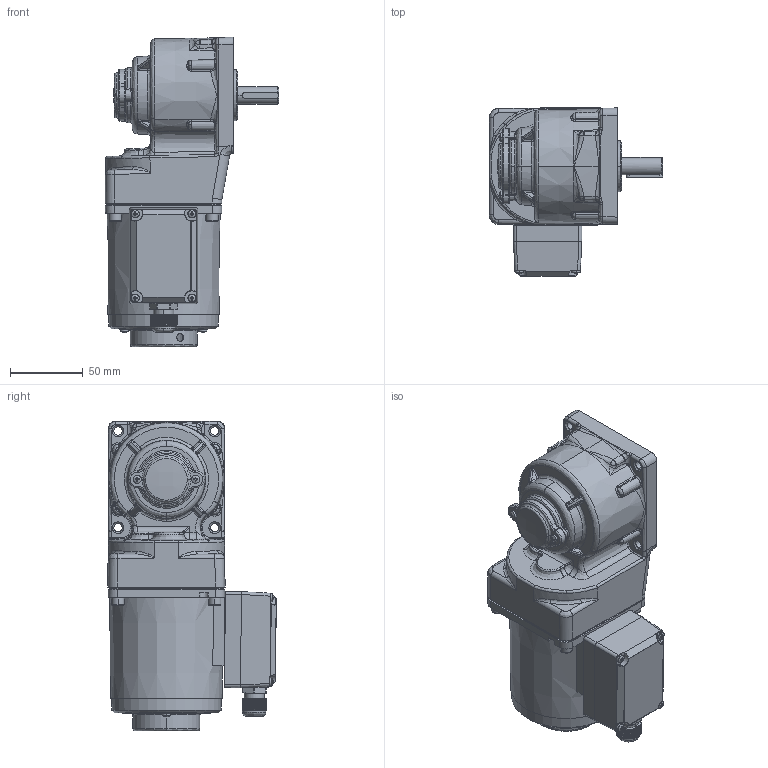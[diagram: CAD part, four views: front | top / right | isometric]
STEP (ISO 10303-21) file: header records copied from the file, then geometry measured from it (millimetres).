
FILE_DESCRIPTION (( 'STEP AP203' ), '1' );
FILE_NAME ('4IK25RGN-CT(4GN3RT-180RT)ÐÂ.STEP', '2022-02-21T09:33:53', ( 'PC' ), ( 'Microsoft' ), 'SwSTEP 2.0', 'SolidWorks 2014', '' );
FILE_SCHEMA (( 'CONFIG_CONTROL_DESIGN' ));
Length unit declared in the file: millimetre
Products named in the file (22): PRT0101^3ik15ra-c_asm(2)_70TSZ.STEP; PRT0035^ASM0002_ASM_ASM_ASM0001_ASM_ASM_4IK25GN-CT-4GN3-180RC_ASM_ASM_4ik25gn-ct-4gn3-180rt_asm(2)_8; PRT0099^3ik15ra-c_asm(2)_70TSZ.STEP; 3ik15ra-c_asm(2)^70TSZ.STEP; cross recessed pan head screws gb_GB_CROSS_SCREWS_TYPE1 M3X6-6  H type-N; 80妗陑怀堤粣; TSJXH^70TSJXHG(2)_70TSJXHG.STEP.STEP; 70TSZ.STEP; 70TSJXHG.STEP.STEP; hexagon socket head cap screws gb_GB_FASTENER_SCREWS_HSHCS M4X12-N; 80TSJXHJK.STEP; M14SJQ^70TSJXHG(2)_70TSJXHG.STEP.STEP; 3IK15RA-C_AF0^3ik15ra-c_asm(2)_70TSZ.STEP; M3^70TSJXHG(2)_70TSJXHG.STEP.STEP; zd-4gn1000rc-504-001-20211209（PROE导出的版本）; 80眻褒眊裔; 4IK25RGN-CT.STEP; 80綴傷裔; 70TSJXHG(2)^70TSJXHG.STEP.STEP; 80壔裔; 4IK25RGN-CT(4GN3RT-180RT)陔; 4IK25RGN-CT
Assembly tree (31 placements, depth 6):
  4IK25RGN-CT(4GN3RT-180RT)陔
    80眻褒眊裔
    zd-4gn1000rc-504-001-20211209（PROE导出的版本）
    80妗陑怀堤粣
    80壔裔
    80綴傷裔
    hexagon socket head cap screws gb_GB_FASTENER_SCREWS_HSHCS M4X12-N  x4
    cross recessed pan head screws gb_GB_CROSS_SCREWS_TYPE1 M3X6-6  H type-N  x2
    PRT0035^ASM0002_ASM_ASM_ASM0001_ASM_ASM_4IK25GN-CT-4GN3-180RC_ASM_ASM_4ik25gn-ct-4gn3-180rt_asm(2)_8  x4
    4IK25RGN-CT
      4IK25RGN-CT.STEP
        70TSJXHG.STEP.STEP
          70TSJXHG(2)^70TSJXHG.STEP.STEP
            TSJXH^70TSJXHG(2)_70TSJXHG.STEP.STEP
            M14SJQ^70TSJXHG(2)_70TSJXHG.STEP.STEP
            M3^70TSJXHG(2)_70TSJXHG.STEP.STEP  x4
        70TSZ.STEP
          3ik15ra-c_asm(2)^70TSZ.STEP
            3IK15RA-C_AF0^3ik15ra-c_asm(2)_70TSZ.STEP
            PRT0099^3ik15ra-c_asm(2)_70TSZ.STEP
            PRT0101^3ik15ra-c_asm(2)_70TSZ.STEP
        80TSJXHJK.STEP
Bounding box: 119 x 115.74 x 212.72 mm (x, y, z)
Volume: 812093.2 mm3; surface area: 179918.7 mm2
Topology: 25 solids, 26 shells, 3305 faces, 7574 edges, 4289 vertices
Faces by surface type: cone 1255, cylinder 1003, plane 537, bspline 500, torus 8, sphere 2
Entity records: 96797 total; most frequent: CARTESIAN_POINT 51328, ORIENTED_EDGE 9656, DIRECTION 7977, EDGE_CURVE 4828, AXIS2_PLACEMENT_3D 3133, VERTEX_POINT 2867, EDGE_LOOP 2183, FACE_OUTER_BOUND 2069
